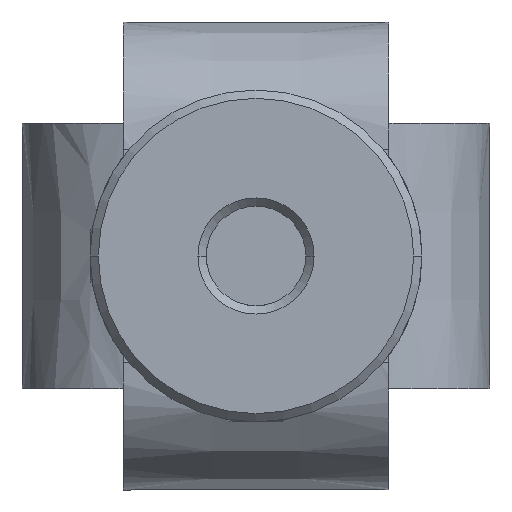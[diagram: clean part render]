
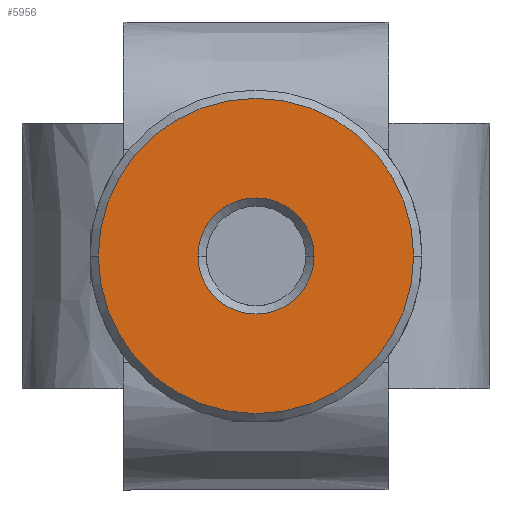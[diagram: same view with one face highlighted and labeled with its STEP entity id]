
A CAD part, front view. The second image highlights one B-rep face of the part: STEP entity #5956.
In plain terms, the highlighted planar face has unit normal (0, -1, 0).
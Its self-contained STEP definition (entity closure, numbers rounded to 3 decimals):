
#542 = DIRECTION ( 'NONE',  ( -1., 0., 0. ) ) ;
#643 = AXIS2_PLACEMENT_3D ( 'NONE', #1953, #7338, #4777 ) ;
#923 = ORIENTED_EDGE ( 'NONE', *, *, #7022, .T. ) ;
#1160 = CARTESIAN_POINT ( 'NONE',  ( 0., -35.24, 0. ) ) ;
#1278 = AXIS2_PLACEMENT_3D ( 'NONE', #6240, #1441, #6345 ) ;
#1439 = AXIS2_PLACEMENT_3D ( 'NONE', #1160, #6506, #2966 ) ;
#1441 = DIRECTION ( 'NONE',  ( 0., -1., 0. ) ) ;
#1621 = CARTESIAN_POINT ( 'NONE',  ( -3.5, -35.24, 0. ) ) ;
#1683 = EDGE_CURVE ( 'NONE', #6568, #2217, #2568, .T. ) ;
#1727 = CARTESIAN_POINT ( 'NONE',  ( 0., -35.24, 0. ) ) ;
#1751 = CARTESIAN_POINT ( 'NONE',  ( 0., -35.24, 0. ) ) ;
#1793 = PLANE ( 'NONE',  #2587 ) ;
#1953 = CARTESIAN_POINT ( 'NONE',  ( 0., -35.24, 0. ) ) ;
#2217 = VERTEX_POINT ( 'NONE', #5207 ) ;
#2374 = EDGE_LOOP ( 'NONE', ( #923, #3674 ) ) ;
#2432 = CARTESIAN_POINT ( 'NONE',  ( -9.5, -35.24, 0. ) ) ;
#2568 = CIRCLE ( 'NONE', #1278, 9.5 ) ;
#2570 = CIRCLE ( 'NONE', #1439, 9.5 ) ;
#2587 = AXIS2_PLACEMENT_3D ( 'NONE', #1751, #6575, #6003 ) ;
#2649 = FACE_BOUND ( 'NONE', #2374, .T. ) ;
#2824 = VERTEX_POINT ( 'NONE', #1621 ) ;
#2952 = AXIS2_PLACEMENT_3D ( 'NONE', #1727, #4122, #542 ) ;
#2966 = DIRECTION ( 'NONE',  ( -1., 0., 0. ) ) ;
#3037 = FACE_OUTER_BOUND ( 'NONE', #6883, .T. ) ;
#3049 = CIRCLE ( 'NONE', #643, 3.5 ) ;
#3674 = ORIENTED_EDGE ( 'NONE', *, *, #5195, .T. ) ;
#3704 = EDGE_CURVE ( 'NONE', #2217, #6568, #2570, .T. ) ;
#4122 = DIRECTION ( 'NONE',  ( 0., 1., 0. ) ) ;
#4183 = CARTESIAN_POINT ( 'NONE',  ( 3.5, -35.24, 0. ) ) ;
#4777 = DIRECTION ( 'NONE',  ( -1., 0., 0. ) ) ;
#5186 = VERTEX_POINT ( 'NONE', #4183 ) ;
#5195 = EDGE_CURVE ( 'NONE', #5186, #2824, #3049, .T. ) ;
#5207 = CARTESIAN_POINT ( 'NONE',  ( 9.5, -35.24, 0. ) ) ;
#5774 = ORIENTED_EDGE ( 'NONE', *, *, #3704, .T. ) ;
#5956 = ADVANCED_FACE ( 'NONE', ( #2649, #3037 ), #1793, .T. ) ;
#6003 = DIRECTION ( 'NONE',  ( -1., 0., 0. ) ) ;
#6136 = CIRCLE ( 'NONE', #2952, 3.5 ) ;
#6240 = CARTESIAN_POINT ( 'NONE',  ( 0., -35.24, 0. ) ) ;
#6345 = DIRECTION ( 'NONE',  ( -1., 0., 0. ) ) ;
#6506 = DIRECTION ( 'NONE',  ( 0., -1., 0. ) ) ;
#6568 = VERTEX_POINT ( 'NONE', #2432 ) ;
#6575 = DIRECTION ( 'NONE',  ( 0., -1., 0. ) ) ;
#6883 = EDGE_LOOP ( 'NONE', ( #5774, #7356 ) ) ;
#7022 = EDGE_CURVE ( 'NONE', #2824, #5186, #6136, .T. ) ;
#7338 = DIRECTION ( 'NONE',  ( 0., 1., 0. ) ) ;
#7356 = ORIENTED_EDGE ( 'NONE', *, *, #1683, .T. ) ;
